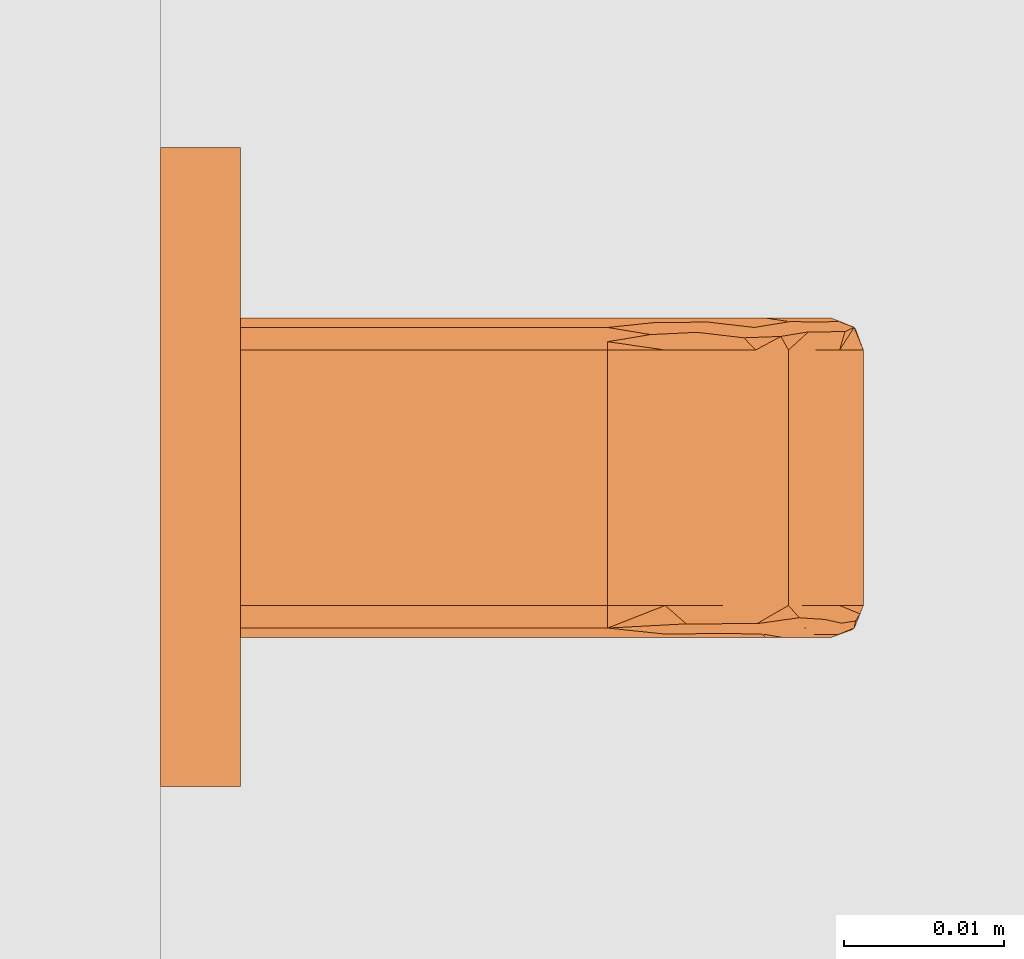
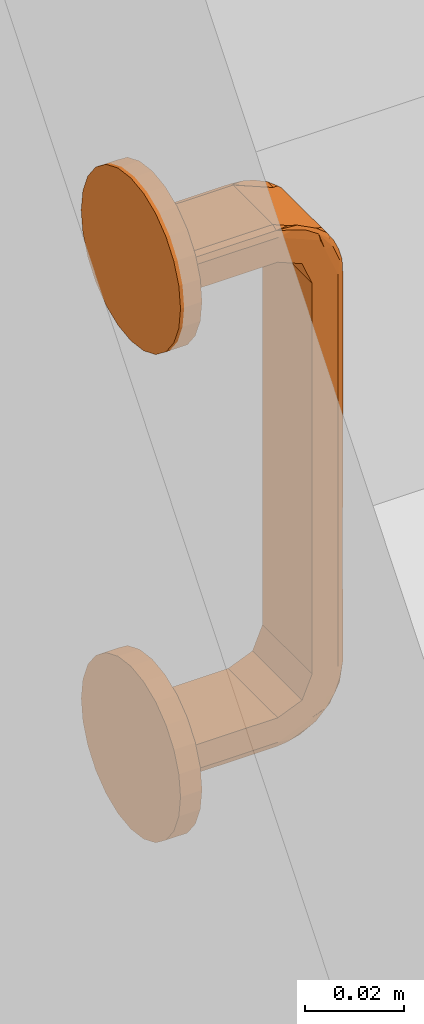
# One storey, part 53 of 67: 1 proxy.
"""IFC4 building model written with IfcOpenShell, lengths in millimetres."""

from ifc_helpers import new_model, entity, si_unit, converted_unit, direction, frame, origin, place, context, subcontext, project, spatial, polygons, source, transform, mapped, material, type_object, type_shapes, element, save


model = new_model("IFC4")

# Units and contexts
model_context = context("Model", 3, precision=0.01, world=origin(), true_north=direction((0.0, 1.0)))
body_context = subcontext(model_context, "Body", "Model", "MODEL_VIEW")
ifc_project = project(units=[si_unit("LENGTHUNIT", "METRE", prefix="MILLI"), si_unit("AREAUNIT", "SQUARE_METRE"), si_unit("VOLUMEUNIT", "CUBIC_METRE"), converted_unit("PLANEANGLEUNIT", "DEGREE", entity("IfcPlaneAngleMeasure", 0.017453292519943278), si_unit("PLANEANGLEUNIT", "RADIAN"), dimensions=[0, 0, 0, 0, 0, 0, 0])], contexts=[model_context])

# Site, building, storey, space
site_placement = place(None, origin())
site = spatial("IfcSite", under=ifc_project, at=site_placement, Name="Tomtens navn", CompositionType="ELEMENT")
building_placement = place(site_placement, origin())
building = spatial("IfcBuilding", under=site, at=building_placement, Name="Byggets navn", CompositionType="ELEMENT")
storey_placement = place(building_placement, origin())
storey = spatial("IfcBuildingStorey", under=building, at=storey_placement, Name="Level 01", CompositionType="ELEMENT", Elevation=2.1993652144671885e-25)
space_placement = place(storey_placement, origin())
space = spatial("IfcSpace", under=storey, at=space_placement, Name="102", CompositionType="ELEMENT", PredefinedType="NOTDEFINED")

# Proxy
ifc_material = material(Name="Handtag, vitt", Category="Unassigned")
building_element_proxy_type = type_object("IfcBuildingElementProxyType", Name="Handtag skåp1:Handtag skåp", PredefinedType="NOTDEFINED", material=ifc_material)
shared_shape = source(origin(), body_context, "Body", "Tessellation", [
    polygons([(8.670220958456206, 4.999999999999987, 4.021099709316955), (-7.329779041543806, 4.999999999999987, 4.021099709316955), (-8.743992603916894, 4.9999999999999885, 3.435313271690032), (-9.32977904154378, 4.999999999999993, 2.021099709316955), (-9.32977904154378, 5.0000000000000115, -4.0210997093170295), (10.67022095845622, 5.0000000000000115, -4.021099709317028), (10.67022095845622, 4.999999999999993, 2.0210997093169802), (10.084434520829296, 4.9999999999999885, 3.435313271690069), (10.67022095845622, 28.000000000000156, 2.0210997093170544), (10.084434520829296, 28.000000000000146, 3.435313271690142), (8.670220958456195, 28.000000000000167, 4.0210997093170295), (8.670220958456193, 15.654960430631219, 4.02109970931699), (10.67022095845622, 17.345040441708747, 2.02109970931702), (10.08659387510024, 16.21238630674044, 3.433150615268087), (10.67022095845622, 28.000000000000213, -4.021099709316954), (10.67022095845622, 33.64193450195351, -6.358065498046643), (10.67022095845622, 35.97890029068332, -11.999999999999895), (10.67022095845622, 35.97890029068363, -107.99999999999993), (10.67022095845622, 33.641934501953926, -113.64193450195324), (10.67022095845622, 28.000000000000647, -115.97890029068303), (10.67022095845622, 4.999999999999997, -115.97890029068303), (10.67022095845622, 4.999999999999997, -122.02109970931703), (10.67022095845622, 28.000000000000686, -122.02109970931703), (10.67022095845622, 37.914414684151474, -117.91441468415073), (10.67022095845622, 42.02109970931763, -107.99999999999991), (10.67022095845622, 42.0210997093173, -11.999999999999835), (10.67022095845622, 37.914414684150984, -2.085585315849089), (-9.32977904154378, 28.000000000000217, -4.021099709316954), (-9.32977904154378, 28.000000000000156, 2.02109970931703), (-9.32977904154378, 37.91441468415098, -2.085585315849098), (-9.32977904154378, 42.02109970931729, -11.999999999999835), (-9.32977904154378, 42.02109970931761, -107.99999999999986), (-9.32977904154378, 37.91441468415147, -117.91441468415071), (-9.32977904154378, 28.00000000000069, -122.02109970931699), (-9.32977904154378, 4.999999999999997, -122.021099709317), (-9.32977904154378, 4.999999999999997, -115.978900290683), (-9.32977904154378, 28.000000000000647, -115.97890029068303), (-9.32977904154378, 33.641934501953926, -113.64193450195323), (-9.32977904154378, 35.97890029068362, -107.99999999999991), (-9.32977904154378, 35.978900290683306, -11.999999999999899), (-9.32977904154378, 33.64193450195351, -6.358065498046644), (-7.329779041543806, 28.00000000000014, 4.0210997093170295), (-8.743992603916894, 28.000000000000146, 3.435313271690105), (-9.32977904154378, 15.654959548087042, 2.021099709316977), (-7.3297790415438, 17.34503999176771, 4.021099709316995), (-8.741829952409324, 16.21238644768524, 3.43747262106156), (10.084434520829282, 43.43531327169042, -11.999999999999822), (8.670220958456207, 44.021099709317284, -11.999999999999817), (8.670220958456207, 39.328628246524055, -0.6713717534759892), (10.67022095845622, 31.60126528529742, 0.5294067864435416), (8.670220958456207, 41.03771385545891, -4.797469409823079), (10.084434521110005, 40.40873190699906, -2.8200071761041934), (8.670220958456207, 35.20253058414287, 1.0377138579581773), (9.809043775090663, 37.34144424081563, 0.5752165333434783), (9.818751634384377, 32.92350079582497, 2.8642465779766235), (10.67022095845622, 39.96775719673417, -7.042792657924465), (10.377327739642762, 28.000000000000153, 2.7282064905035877), (8.670220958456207, 42.529406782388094, -8.398734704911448), (9.779150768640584, 42.65191997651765, -6.400304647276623), (10.431420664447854, 34.75591670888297, 1.357514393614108), (10.447049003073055, 37.64140257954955, -0.5884869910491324), (10.67022095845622, 34.7578399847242, -0.7780892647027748), (10.453824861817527, 31.52927433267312, 2.5026982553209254), (8.670220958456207, 31.601265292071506, 2.5294067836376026), (8.670220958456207, 40.18317105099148, -2.734420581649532), (9.435587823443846, 40.00295364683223, -1.6197407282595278), (9.543801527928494, 41.59747716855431, -3.9137042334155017), (10.67022095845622, 38.941085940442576, -4.564188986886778), (10.50224699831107, 40.95405539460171, -4.794062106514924), (10.477567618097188, 42.45420227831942, -8.47617064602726), (9.193272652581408, 43.80444460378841, -11.999999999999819), (9.638611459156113, 43.538770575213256, -9.303396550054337), (10.67022095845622, 40.99442845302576, -9.521396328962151), (-7.329779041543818, 44.021099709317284, -11.999999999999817), (-8.743992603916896, 43.43531327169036, -11.999999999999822), (-7.329779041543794, 39.328628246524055, -0.6713717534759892), (-7.329779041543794, 35.20253057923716, 1.0377138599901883), (-8.743992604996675, 37.179992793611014, 0.40873192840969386), (-9.32977904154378, 40.52940677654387, -8.398734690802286), (-7.329779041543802, 41.03771385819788, -4.797469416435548), (-8.468601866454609, 40.57521654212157, -2.6585557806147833), (-8.47830971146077, 42.864246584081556, -7.076499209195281), (-9.32977904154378, 32.95720734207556, -0.03224280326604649), (-9.036885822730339, 42.728206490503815, -11.999999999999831), (-7.329779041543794, 31.601265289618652, 2.529406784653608), (-8.43870885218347, 33.59969531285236, 2.6519199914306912), (-9.090978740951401, 41.357514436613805, -5.244083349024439), (-9.106607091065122, 39.41151304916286, -2.358597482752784), (-9.32977904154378, 39.22191073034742, -5.242160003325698), (-9.113382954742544, 42.502698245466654, -8.470725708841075), (-7.32977904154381, 42.52940678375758, -8.398734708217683), (-7.329779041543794, 37.26557941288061, 0.18317105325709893), (-8.095145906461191, 36.54048464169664, 1.37463273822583), (-8.18279176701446, 38.85536792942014, -0.47819170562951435), (-9.32977904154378, 35.43581101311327, -1.0589140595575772), (-7.852830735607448, 28.00000000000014, 3.8044446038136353), (-8.29816953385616, 30.69660343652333, 3.5387705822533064), (-9.060718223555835, 31.048754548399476, 2.7104148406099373), (-9.074370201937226, 34.340507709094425, 1.5930015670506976), (-9.32977904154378, 30.478603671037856, 0.9944284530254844), (-7.32977904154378, 33.664314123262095, 1.6748639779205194), (8.670220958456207, 33.664314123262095, 1.6748639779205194), (8.670220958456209, 30.748770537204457, 2.882521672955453), (-7.32977904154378, 41.67486397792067, -6.335685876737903), (8.670220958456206, 41.67486397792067, -6.335685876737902), (8.670220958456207, 40.50174611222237, -3.503528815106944), (-7.32977904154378, 36.496471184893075, 0.5017461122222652), (8.670220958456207, 36.496471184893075, 0.5017461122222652), (-7.32977904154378, 30.83215706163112, 2.847981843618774), (8.670220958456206, 42.882521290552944, -9.251228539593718), (-7.32977904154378, 42.84798184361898, -9.167842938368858), (-7.32977904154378, 40.50174611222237, -3.503528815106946), (10.084434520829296, 43.435313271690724, -107.99999999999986), (8.670220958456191, 44.0210997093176, -107.99999999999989), (10.67022095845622, 42.02109970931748, -61.380159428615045), (8.670220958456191, 44.021099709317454, -60.0000005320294), (8.670220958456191, 44.02109970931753, -83.30992070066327), (10.67022095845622, 42.021099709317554, -84.69007971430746), (8.670220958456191, 44.021099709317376, -36.690079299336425), (10.67022095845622, 42.02109970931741, -36.690079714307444), (10.67022095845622, 42.021099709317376, -24.34503985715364), (8.670220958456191, 44.02109970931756, -95.65496088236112), (8.670220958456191, 44.02109970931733, -24.34504018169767), (10.67022095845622, 42.021099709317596, -95.65496014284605), (10.084434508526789, 43.43531328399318, -90.17251993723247), (10.67022095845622, 42.02109970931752, -73.035119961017), (10.043884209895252, 43.4747328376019, -67.20763959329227), (10.084434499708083, 43.435313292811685, -30.517560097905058), (10.084434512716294, 43.435313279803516, -43.72292802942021), (10.67022095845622, 42.021099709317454, -49.03511957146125), (10.049878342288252, 43.469044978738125, -55.46284370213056), (8.67022095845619, 44.02109970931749, -71.65496114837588), (10.18815291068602, 43.32336027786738, -78.66752152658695), (8.670220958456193, 44.02109970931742, -48.34503991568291), (-7.329779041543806, 44.0210997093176, -107.99999999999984), (-8.743992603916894, 43.43531327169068, -107.99999999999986), (-7.3297790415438, 44.021099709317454, -61.38015981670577), (-9.32977904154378, 42.021099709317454, -59.999999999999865), (-9.32977904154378, 42.02109970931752, -83.30992051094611), (-7.329779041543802, 44.02109970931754, -84.69008022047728), (-9.32977904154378, 42.02109970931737, -36.69007991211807), (-7.329779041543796, 44.021099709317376, -36.69007990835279), (-7.329779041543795, 44.02109970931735, -24.345039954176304), (-9.32977904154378, 42.02109970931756, -95.65496025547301), (-9.32977904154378, 42.02109970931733, -24.345040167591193), (-7.329779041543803, 44.021099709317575, -95.65496067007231), (-8.743992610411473, 43.43531326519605, -90.17252002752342), (-7.3297790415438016, 44.0210997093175, -73.03512001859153), (-8.783412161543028, 43.39476296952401, -67.2076399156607), (-8.743992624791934, 43.4353132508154, -30.517560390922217), (-8.74399260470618, 43.43531327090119, -43.72292838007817), (-7.329779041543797, 44.02109970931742, -49.03511986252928), (-8.777724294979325, 43.40075710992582, -55.46284405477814), (-9.32977904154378, 42.02109970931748, -71.65496025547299), (-8.632039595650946, 43.53903167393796, -78.6675217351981), (-9.32977904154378, 42.02109970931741, -48.345039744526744), (10.08443452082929, 28.0000000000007, -123.43531327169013), (8.670220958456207, 28.000000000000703, -124.02109970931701), (8.670220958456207, 39.32862824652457, -119.32862824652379), (10.67022095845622, 40.52940678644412, -111.60126528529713), (8.670220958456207, 35.202530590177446, -121.03771385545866), (10.084434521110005, 37.179992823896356, -120.4087319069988), (8.670220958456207, 41.03771385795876, -115.20253058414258), (9.809043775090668, 40.575216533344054, -117.34144424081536), (9.818751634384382, 42.864246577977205, -112.9235007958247), (10.67022095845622, 32.95720734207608, -119.96775719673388), (10.377327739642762, 42.728206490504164, -107.99999999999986), (8.670220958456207, 31.601265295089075, -122.52940678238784), (9.779150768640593, 33.5996953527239, -122.65191997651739), (10.431420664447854, 41.357514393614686, -114.7559167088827), (10.447049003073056, 39.41151300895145, -117.64140257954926), (10.67022095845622, 39.2219107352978, -114.75783998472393), (10.453824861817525, 42.50269825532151, -111.52927433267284), (8.670220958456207, 42.52940678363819, -111.60126529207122), (8.670220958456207, 37.26557941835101, -120.18317105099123), (9.43558782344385, 38.38025927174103, -120.00295364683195), (9.543801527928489, 36.08629576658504, -121.59747716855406), (10.67022095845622, 35.435811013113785, -118.9410859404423), (10.50224699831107, 35.20593789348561, -120.95405539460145), (10.477567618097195, 31.523829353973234, -122.45420227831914), (9.193272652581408, 28.000000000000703, -123.80444460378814), (9.638611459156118, 30.696603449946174, -123.538770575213), (10.67022095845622, 30.47860367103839, -120.99442845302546), (-7.329779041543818, 28.000000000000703, -124.02109970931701), (-8.743992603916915, 28.0000000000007, -123.43531327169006), (-7.329779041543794, 39.32862824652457, -119.32862824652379), (-7.329779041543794, 41.03771385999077, -115.20253057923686), (-8.743992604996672, 40.40873192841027, -117.17999279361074), (-9.32977904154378, 31.601265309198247, -120.52940677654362), (-7.329779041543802, 35.20253058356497, -121.03771385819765), (-8.468601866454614, 37.34144421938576, -120.57521654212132), (-8.478309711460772, 32.92350079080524, -122.8642465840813), (-9.32977904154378, 39.967757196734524, -112.95720734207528), (-9.036885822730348, 28.000000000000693, -122.72820649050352), (-7.329779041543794, 42.529406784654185, -111.60126528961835), (-8.438708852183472, 42.65191999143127, -113.59969531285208), (-9.090978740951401, 34.75591665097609, -121.35751443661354), (-9.106607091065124, 37.64140251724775, -119.41151304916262), (-9.32977904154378, 34.75783999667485, -119.22191073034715), (-9.113382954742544, 31.529274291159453, -122.50269824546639), (-7.329779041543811, 31.601265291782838, -122.52940678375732), (-7.329779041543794, 40.18317105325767, -117.26557941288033), (-8.095145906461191, 41.37463273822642, -116.54048464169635), (-8.182791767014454, 39.52180829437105, -118.85536792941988), (-9.32977904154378, 38.941085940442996, -115.435811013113), (-7.852830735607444, 43.804444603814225, -107.99999999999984), (-8.298169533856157, 43.53877058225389, -110.69660343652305), (-9.060718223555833, 42.710414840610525, -111.04875454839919), (-9.074370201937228, 41.59300156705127, -114.34050770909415), (-9.32977904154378, 40.99442845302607, -110.47860367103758), (-7.32977904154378, 41.6748639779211, -113.66431412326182), (8.670220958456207, 41.6748639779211, -113.66431412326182), (8.670220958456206, 42.88252167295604, -110.74877053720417), (-7.32977904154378, 33.66431412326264, -121.67486397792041), (8.670220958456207, 33.66431412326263, -121.67486397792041), (8.670220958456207, 36.4964711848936, -120.50174611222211), (-7.32977904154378, 40.50174611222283, -116.4964711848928), (8.670220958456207, 40.50174611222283, -116.4964711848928), (-7.32977904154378, 42.84798184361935, -110.83215706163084), (8.670220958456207, 30.748771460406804, -122.88252129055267), (-7.329779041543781, 30.83215706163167, -122.84798184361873), (-7.32977904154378, 36.49647118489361, -120.50174611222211), (8.670220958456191, 4.99999999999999, -124.021099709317), (10.084434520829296, 4.99999999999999, -123.43531327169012), (-8.743992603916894, 4.99999999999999, -123.43531327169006), (-7.32977904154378, 4.99999999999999, -124.02109970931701), (8.670220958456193, 17.34504139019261, -124.021099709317), (10.67022095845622, 15.65496022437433, -122.02109970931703), (10.08659387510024, 16.787613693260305, -123.43315061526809), (-9.32977904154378, 17.34504010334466, -122.02109970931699), (-7.3297790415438, 15.6549594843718, -124.021099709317), (-8.741829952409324, 16.787613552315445, -123.43747262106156)], [[[4, 5, 6, 7, 8, 1, 2, 3]], [[18, 17, 40, 39]], [[226, 223, 224, 22, 21, 36, 35, 225]], [[13, 9, 57, 10]], [[14, 13, 10]], [[11, 12, 14]], [[1, 8, 12]], [[12, 8, 14]], [[13, 14, 7]], [[14, 8, 7]], [[14, 10, 11]], [[6, 15, 16, 17, 18, 19, 20, 21, 22, 228, 23, 183, 166, 178, 24, 172, 160, 25, 124, 118, 126, 115, 130, 120, 121, 26, 73, 56, 68, 27, 62, 50, 9, 13, 7]], [[15, 6, 5, 28]], [[158, 227, 223, 226, 231, 184]], [[36, 37, 38, 39, 40, 41, 28, 5, 4, 44, 29, 100, 83, 95, 30, 89, 79, 31, 145, 141, 156, 138, 154, 139, 144, 32, 210, 193, 205, 33, 199, 189, 34, 230, 35]], [[45, 42, 96, 43]], [[46, 45, 43]], [[29, 44, 46]], [[4, 3, 44]], [[44, 3, 46]], [[45, 46, 2]], [[46, 3, 2]], [[46, 43, 29]], [[2, 1, 12, 11, 42, 45]], [[21, 20, 37, 36]], [[60, 62, 61]], [[68, 56, 69]], [[66, 65, 49]], [[55, 54, 53]], [[59, 58, 105, 51]], [[67, 51, 106, 65]], [[69, 56, 70]], [[50, 60, 63]], [[55, 64, 10]], [[59, 67, 52]], [[54, 49, 108, 53]], [[72, 71, 58]], [[54, 55, 60]], [[69, 61, 68]], [[66, 52, 67]], [[68, 61, 27]], [[55, 10, 63]], [[63, 10, 57, 9]], [[71, 48, 110, 58]], [[70, 26, 47]], [[54, 60, 61]], [[63, 9, 50]], [[54, 61, 52]], [[27, 61, 62]], [[60, 50, 62]], [[63, 60, 55]], [[10, 64, 103, 11]], [[55, 53, 102, 64]], [[66, 54, 52]], [[66, 49, 54]], [[66, 67, 65]], [[67, 59, 51]], [[69, 52, 61]], [[69, 59, 52]], [[59, 69, 70]], [[70, 72, 59]], [[73, 26, 70, 56]], [[47, 71, 72]], [[47, 72, 70]], [[59, 72, 58]], [[15, 28, 41, 16]], [[41, 40, 17, 16]], [[96, 42, 109, 85]], [[79, 87, 90]], [[86, 85, 101, 77]], [[86, 99, 98]], [[93, 77, 107, 92]], [[81, 82, 87]], [[80, 82, 81]], [[78, 95, 99]], [[87, 89, 88]], [[78, 99, 86]], [[93, 94, 78]], [[82, 91, 75]], [[81, 76, 112, 80]], [[94, 93, 92]], [[88, 78, 94]], [[95, 88, 30]], [[82, 75, 90]], [[90, 75, 84, 31]], [[43, 97, 98]], [[86, 98, 97]], [[81, 87, 88]], [[90, 31, 79]], [[94, 81, 88]], [[30, 88, 89]], [[87, 79, 89]], [[90, 87, 82]], [[75, 91, 111, 74]], [[82, 80, 104, 91]], [[93, 86, 77]], [[93, 78, 86]], [[94, 76, 81]], [[76, 94, 92]], [[78, 88, 95]], [[43, 96, 97]], [[97, 96, 85]], [[86, 97, 85]], [[98, 29, 43]], [[99, 95, 83, 100]], [[100, 98, 99]], [[100, 29, 98]], [[42, 11, 103, 64, 102, 53, 108, 49, 76, 92, 107, 77, 101, 85, 109]], [[105, 58, 110, 48, 74, 111, 91, 104, 80, 112, 76, 49, 65, 106, 51]], [[47, 26, 121, 120, 130, 129, 128]], [[124, 25, 167, 113, 125, 118]], [[118, 133, 126]], [[127, 115, 126]], [[123, 48, 71, 47, 128, 129, 134, 119]], [[113, 114, 122, 117, 125]], [[129, 130, 131]], [[115, 131, 130]], [[133, 127, 126]], [[132, 116, 127]], [[125, 117, 133]], [[116, 134, 131]], [[127, 116, 131]], [[127, 131, 115]], [[134, 129, 131]], [[132, 127, 133]], [[117, 132, 133]], [[125, 133, 118]], [[75, 74, 143, 142, 152, 151, 150]], [[146, 135, 206, 136, 147, 140]], [[140, 155, 148]], [[149, 137, 148]], [[145, 31, 84, 75, 150, 151, 156, 141]], [[136, 32, 144, 139, 147]], [[151, 152, 153]], [[137, 153, 152]], [[155, 149, 148]], [[154, 138, 149]], [[147, 139, 155]], [[138, 156, 153]], [[149, 138, 153]], [[149, 153, 137]], [[156, 151, 153]], [[154, 149, 155]], [[139, 154, 155]], [[147, 155, 140]], [[74, 48, 123, 119, 134, 116, 132, 117, 122, 114, 135, 146, 140, 148, 137, 152, 142, 143]], [[170, 172, 171]], [[178, 166, 179]], [[176, 175, 159]], [[165, 164, 163]], [[169, 168, 215, 161]], [[177, 161, 216, 175]], [[179, 166, 180]], [[160, 170, 173]], [[165, 174, 113]], [[169, 177, 162]], [[164, 159, 218, 163]], [[182, 181, 168]], [[164, 165, 170]], [[179, 171, 178]], [[176, 162, 177]], [[178, 171, 24]], [[165, 113, 173]], [[173, 113, 167, 25]], [[181, 158, 220, 168]], [[180, 23, 157]], [[164, 170, 171]], [[173, 25, 160]], [[164, 171, 162]], [[24, 171, 172]], [[170, 160, 172]], [[173, 170, 165]], [[113, 174, 213, 114]], [[165, 163, 212, 174]], [[176, 164, 162]], [[176, 159, 164]], [[176, 177, 175]], [[177, 169, 161]], [[179, 162, 171]], [[179, 169, 162]], [[169, 179, 180]], [[180, 182, 169]], [[183, 23, 180, 166]], [[157, 181, 182]], [[157, 182, 180]], [[169, 182, 168]], [[18, 39, 38, 19]], [[38, 37, 20, 19]], [[206, 135, 219, 195]], [[189, 197, 200]], [[196, 195, 211, 187]], [[196, 209, 208]], [[203, 187, 217, 202]], [[191, 192, 197]], [[190, 192, 191]], [[188, 205, 209]], [[197, 199, 198]], [[188, 209, 196]], [[203, 204, 188]], [[192, 201, 185]], [[191, 186, 222, 190]], [[204, 203, 202]], [[188, 196, 203]], [[205, 198, 33]], [[192, 185, 200]], [[200, 185, 194, 34]], [[136, 207, 208]], [[196, 208, 207]], [[191, 197, 198]], [[200, 34, 189]], [[204, 191, 198]], [[33, 198, 199]], [[197, 189, 199]], [[200, 197, 192]], [[185, 201, 221, 184]], [[192, 190, 214, 201]], [[187, 203, 196]], [[188, 204, 198]], [[204, 186, 191]], [[186, 204, 202]], [[188, 198, 205]], [[136, 206, 207]], [[207, 206, 195]], [[196, 207, 195]], [[208, 32, 136]], [[209, 205, 193, 210]], [[210, 208, 209]], [[210, 32, 208]], [[135, 114, 213, 174, 212, 163, 218, 159, 186, 202, 217, 187, 211, 195, 219]], [[215, 168, 220, 158, 184, 221, 201, 214, 190, 222, 186, 159, 175, 216, 161]], [[22, 224, 228]], [[229, 228, 224]], [[223, 227, 229]], [[227, 158, 181, 157]], [[227, 157, 229]], [[228, 229, 23]], [[229, 157, 23]], [[229, 224, 223]], [[226, 225, 231]], [[232, 231, 225]], [[35, 230, 232]], [[230, 34, 194, 185]], [[230, 185, 232]], [[231, 232, 184]], [[232, 185, 184]], [[232, 225, 35]]], closed=True),
    polygons([(-20.00000000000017, 4.999999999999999, 4.9806020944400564e-15), (-19.318516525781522, 4.999999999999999, 5.176380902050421), (-17.320508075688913, 4.999999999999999, 9.999999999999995), (-14.142135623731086, 4.999999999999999, 14.142135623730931), (-10.000000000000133, 4.999999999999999, 17.320508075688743), (-5.176380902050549, 4.999999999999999, 19.318516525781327), (-1.3958834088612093e-13, 4.999999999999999, 19.99999999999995), (5.176380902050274, 4.999999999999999, 19.31851652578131), (9.99999999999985, 4.999999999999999, 17.32050807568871), (14.142135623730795, 4.999999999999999, 14.142135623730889), (17.32050807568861, 4.999999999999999, 9.999999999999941), (19.3185165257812, 4.999999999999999, 5.17638090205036), (19.999999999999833, 4.999999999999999, -1.622393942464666e-13), (19.318516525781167, 4.999999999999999, -5.176380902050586), (17.320508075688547, 4.999999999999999, -10.000000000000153), (14.142135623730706, 4.999999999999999, -14.142135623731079), (9.999999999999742, 4.999999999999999, -17.320508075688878), (5.176380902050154, 4.999999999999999, -19.31851652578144), (-2.580269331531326e-13, 4.999999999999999, -20.00000000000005), (-5.176380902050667, 4.999999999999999, -19.318516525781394), (-10.000000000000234, 4.999999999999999, -17.320508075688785), (-14.14213562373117, 4.999999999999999, -14.142135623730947), (-17.320508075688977, 4.999999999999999, -9.999999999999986), (-19.318516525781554, 4.999999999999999, -5.176380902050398), (-20.00000000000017, 0.0, 1.386238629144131e-14), (-19.318516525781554, 0.0, -5.176380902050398), (-17.320508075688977, 0.0, -9.999999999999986), (-14.14213562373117, 0.0, -14.142135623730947), (-10.000000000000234, 0.0, -17.320508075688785), (-5.176380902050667, 0.0, -19.318516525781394), (-2.580269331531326e-13, 0.0, -20.00000000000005), (5.176380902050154, 0.0, -19.31851652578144), (9.999999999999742, 0.0, -17.320508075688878), (14.142135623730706, 0.0, -14.142135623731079), (17.320508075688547, 0.0, -10.000000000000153), (19.318516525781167, 0.0, -5.176380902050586), (19.999999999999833, 0.0, -5.075939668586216e-14), (19.3185165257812, 0.0, 5.17638090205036), (17.32050807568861, 0.0, 9.999999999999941), (14.142135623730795, 0.0, 14.142135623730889), (9.99999999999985, 0.0, 17.32050807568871), (5.176380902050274, 0.0, 19.31851652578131), (-1.3958834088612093e-13, 0.0, 19.99999999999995), (-5.176380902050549, 0.0, 19.318516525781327), (-10.000000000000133, 0.0, 17.320508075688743), (-14.142135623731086, 0.0, 14.142135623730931), (-17.320508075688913, 0.0, 9.999999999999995), (-19.318516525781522, 0.0, 5.176380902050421)], [[[16, 17, 18, 19, 20, 21, 22, 23, 24, 1, 2, 3, 4, 5, 6, 7, 8, 9, 10, 11, 12, 13, 14, 15]], [[41, 42, 43, 44, 45, 46, 47, 48, 25, 26, 27, 28, 29, 30, 31, 32, 33, 34, 35, 36, 37, 38, 39, 40]], [[25, 1, 24, 26]], [[26, 24, 23, 27]], [[29, 28, 22, 21]], [[22, 28, 27, 23]], [[30, 29, 21, 20]], [[30, 20, 19, 31]], [[31, 19, 18, 32]], [[32, 18, 17, 33]], [[35, 34, 16, 15]], [[16, 34, 33, 17]], [[36, 35, 15, 14]], [[36, 14, 13, 37]], [[37, 13, 12, 38]], [[38, 12, 11, 39]], [[41, 40, 10, 9]], [[10, 40, 39, 11]], [[42, 41, 9, 8]], [[42, 8, 7, 43]], [[43, 7, 6, 44]], [[44, 6, 5, 45]], [[47, 46, 4, 3]], [[4, 46, 45, 5]], [[48, 47, 3, 2]], [[48, 2, 1, 25]]], closed=True),
    polygons([(-20.000000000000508, 4.999999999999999, -120.00000000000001), (-19.31851652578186, 4.999999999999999, -114.82361909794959), (-17.320508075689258, 4.999999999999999, -110.00000000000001), (-14.142135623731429, 4.999999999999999, -105.85786437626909), (-10.000000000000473, 4.999999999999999, -102.67949192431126), (-5.176380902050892, 4.999999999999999, -100.68148347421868), (-4.779843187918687e-13, 4.999999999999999, -100.00000000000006), (5.176380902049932, 4.999999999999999, -100.6814834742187), (9.99999999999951, 4.999999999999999, -102.6794919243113), (14.142135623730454, 4.999999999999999, -105.85786437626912), (17.32050807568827, 4.999999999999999, -110.00000000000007), (19.31851652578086, 4.999999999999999, -114.82361909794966), (19.999999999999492, 4.999999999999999, -120.00000000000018), (19.318516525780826, 4.999999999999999, -125.1763809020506), (17.320508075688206, 4.999999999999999, -130.00000000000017), (14.142135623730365, 4.999999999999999, -134.1421356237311), (9.999999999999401, 4.999999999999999, -137.3205080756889), (5.176380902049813, 4.999999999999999, -139.31851652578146), (-6.006528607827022e-13, 4.999999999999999, -140.00000000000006), (-5.176380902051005, 4.999999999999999, -139.3185165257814), (-10.000000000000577, 4.999999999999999, -137.3205080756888), (-14.142135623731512, 4.999999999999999, -134.14213562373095), (-17.32050807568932, 4.999999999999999, -130.0), (-19.31851652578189, 4.999999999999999, -125.17638090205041), (-20.000000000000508, 0.0, -120.0), (-19.31851652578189, 0.0, -125.17638090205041), (-17.32050807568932, 0.0, -130.0), (-14.142135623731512, 0.0, -134.14213562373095), (-10.000000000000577, 0.0, -137.3205080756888), (-5.176380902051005, 0.0, -139.3185165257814), (-6.006528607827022e-13, 0.0, -140.00000000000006), (5.176380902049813, 0.0, -139.31851652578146), (9.999999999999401, 0.0, -137.3205080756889), (14.142135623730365, 0.0, -134.1421356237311), (17.320508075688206, 0.0, -130.00000000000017), (19.318516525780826, 0.0, -125.1763809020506), (19.999999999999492, 0.0, -120.00000000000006), (19.31851652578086, 0.0, -114.82361909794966), (17.32050807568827, 0.0, -110.00000000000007), (14.142135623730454, 0.0, -105.85786437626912), (9.99999999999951, 0.0, -102.6794919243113), (5.176380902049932, 0.0, -100.6814834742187), (-4.779843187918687e-13, 0.0, -100.00000000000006), (-5.176380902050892, 0.0, -100.68148347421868), (-10.000000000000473, 0.0, -102.67949192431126), (-14.142135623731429, 0.0, -105.85786437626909), (-17.320508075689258, 0.0, -110.00000000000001), (-19.31851652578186, 0.0, -114.82361909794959)], [[[17, 18, 19, 20, 21, 22, 23, 24, 1, 2, 3, 4, 5, 6, 7, 8, 9, 10, 11, 12, 13, 14, 15, 16]], [[41, 42, 43, 44, 45, 46, 47, 48, 25, 26, 27, 28, 29, 30, 31, 32, 33, 34, 35, 36, 37, 38, 39, 40]], [[25, 1, 24, 26]], [[26, 24, 23, 27]], [[29, 28, 22, 21]], [[22, 28, 27, 23]], [[30, 29, 21, 20]], [[30, 20, 19, 31]], [[31, 19, 18, 32]], [[32, 18, 17, 33]], [[35, 34, 16, 15]], [[16, 34, 33, 17]], [[36, 35, 15, 14]], [[36, 14, 13, 37]], [[37, 13, 12, 38]], [[38, 12, 11, 39]], [[41, 40, 10, 9]], [[10, 40, 39, 11]], [[42, 41, 9, 8]], [[42, 8, 7, 43]], [[43, 7, 6, 44]], [[44, 6, 5, 45]], [[47, 46, 4, 3]], [[4, 46, 45, 5]], [[48, 47, 3, 2]], [[48, 2, 1, 25]]], closed=True),
])
type_shapes(building_element_proxy_type, [shared_shape])
proxy_placement = place(space_placement, frame((64165.85352810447, 21111.466456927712, 1120.0), z_axis=(0.0, 0.0, 1.0), x_axis=(0.0, -1.0, 0.0)))
element("IfcBuildingElementProxy", 1, at=proxy_placement, inside=space, type_object=building_element_proxy_type, material=ifc_material, Name="Handtag skåp1:Handtag skåp", PredefinedType="NOTDEFINED", context=body_context, shape_type="MappedRepresentation", body=[
    mapped(shared_shape, transform((0.0, 0.0, 0.0), scale=1.0)),
])

save(model, "model.ifc")
